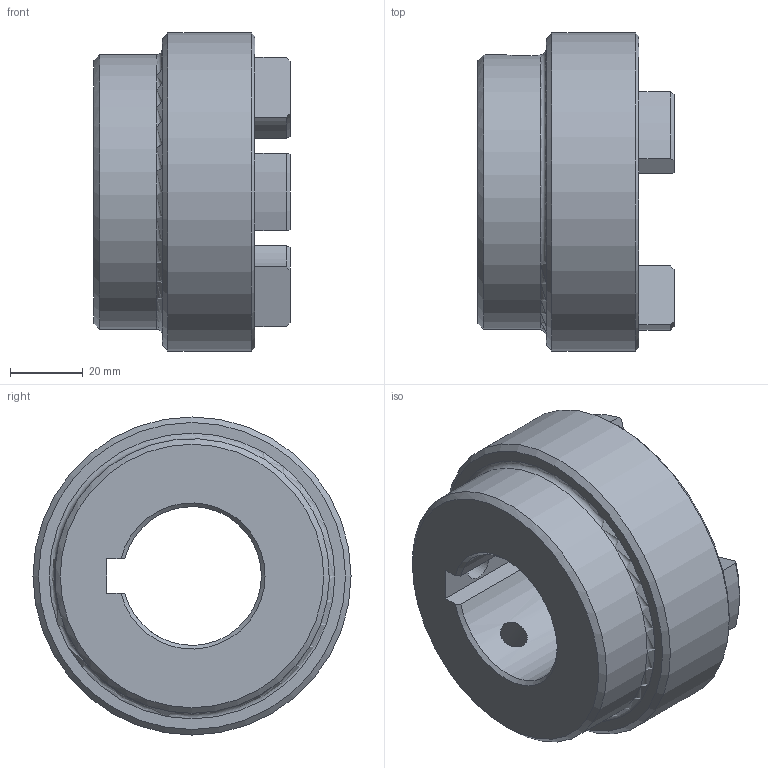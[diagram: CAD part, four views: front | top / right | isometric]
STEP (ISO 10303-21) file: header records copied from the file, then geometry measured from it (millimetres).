
FILE_DESCRIPTION (( 'STEP AP203' ), '1' );
FILE_NAME ('RC3.step', '2024-07-24T12:52:59', ( 'Adlan' ), ( '' ), 'SwSTEP 2.0', 'SolidWorks 2013', '' );
FILE_SCHEMA (( 'CONFIG_CONTROL_DESIGN' ));
Length unit declared in the file: inch
Products named in the file (1): RC3
Bounding box: 53.85 x 87.38 x 87.38 mm (x, y, z)
Volume: 155744.5 mm3; surface area: 30566.3 mm2
Topology: 1 solids, 1 shells, 69 faces, 182 edges, 115 vertices
Faces by surface type: cylinder 26, plane 18, torus 13, cone 12
Full cylindrical faces by diameter (mm): 7.937 x2, 75.438 x1, 87.376 x1
Entity records: 2363 total; most frequent: CARTESIAN_POINT 618, DIRECTION 364, ORIENTED_EDGE 332, EDGE_CURVE 166, AXIS2_PLACEMENT_3D 147, VERTEX_POINT 109, EDGE_LOOP 85, CIRCLE 77
